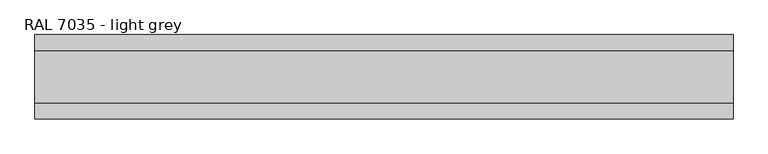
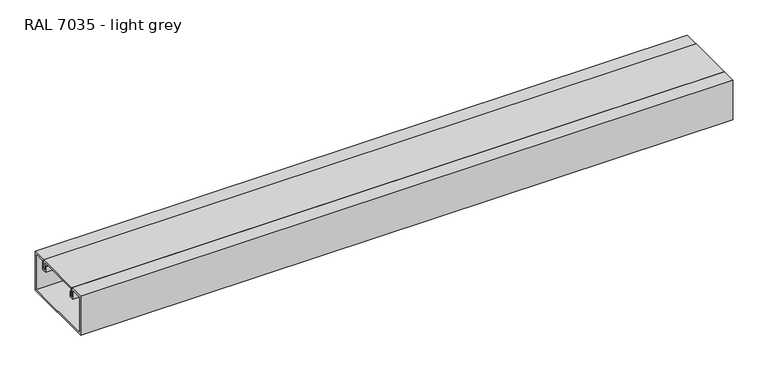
"""IFC4 building model written with IfcOpenShell, lengths in millimetres: proxy geometry, Electrical_Installations_Hager_BRP-Lid-End-Cap-One-Compartment : RAL 7035 - light grey."""

from ifc_helpers import new_model, si_unit, frame, origin, place, context, project, spatial, polyline, outline, extrude, source, transform, mapped, element, save


def ral_7035_light_grey_e47fedab(model_context):
    return source(origin(), model_context, "Body", "SweptSolid", [
        extrude(outline(polyline([(40.0, 18.6492509), (37.5361498, 18.6492509), (37.5361498, 30.0), (-37.5361498, 30.0), (-37.5361498, 18.6492509), (-40.0, 18.6492509), (-40.0, 33.0), (40.0, 33.0), (40.0, 18.6492509)])), frame((0.0, 0.0, 0.0), z_axis=(1.0, 0.0, 0.0), x_axis=(0.0, 1.0, 0.0)), (0.0, 0.0, 1.0), 1073.4455182),
        extrude(outline(polyline([(65.0, 33.0), (65.0, -35.0582587), (-65.0, -35.0582587), (-65.0, 33.0), (-40.5, 33.0), (-40.5, 16.0), (-36.578125, 16.0), (-36.578125, 24.0415809), (-35.3, 24.0415809), (-35.3, 14.0), (-42.5, 14.0), (-42.5, 30.0), (-62.0, 30.0), (-62.0, -32.0582587), (62.0, -32.0582587), (62.0, 30.0), (42.5, 30.0), (42.5, 14.0), (35.221875, 14.0), (35.221875, 24.0415809), (36.5, 24.0415809), (36.5, 16.0), (40.5, 16.0), (40.5, 33.0), (65.0, 33.0)])), frame((0.0, 0.0, 0.0), z_axis=(1.0, 0.0, 0.0), x_axis=(0.0, 1.0, 0.0)), (0.0, 0.0, 1.0), 1073.4455182),
    ])


if __name__ == "__main__":
    model = new_model("IFC4")
    model_context = context("Model", 3, world=origin())
    ifc_project = project(units=[si_unit("LENGTHUNIT", "METRE", prefix="MILLI")], contexts=[model_context])
    site = spatial("IfcSite", under=ifc_project)
    building = spatial("IfcBuilding", under=site)
    placement = place(None, origin())
    ral_7035_light_grey_shape = ral_7035_light_grey_e47fedab(model_context)
    element("IfcBuildingElementProxy", 1, Name="Electrical_Installations_Hager_BRP-Lid-End-Cap-One-Compartment : RAL 7035 - light grey", ObjectType="Electrical_Installations_Hager_BRP-Lid-End-Cap-One-Compartment : RAL 7035 - light grey", at=placement, inside=building, context=model_context, shape_type="MappedRepresentation", body=[
        mapped(ral_7035_light_grey_shape, transform((0.0, 0.0, 0.0), x_axis=(1.0, 0.0, 0.0), y_axis=(0.0, 1.0, 0.0), z_axis=(0.0, 0.0, 1.0))),
    ])
    save(model, "model.ifc")
